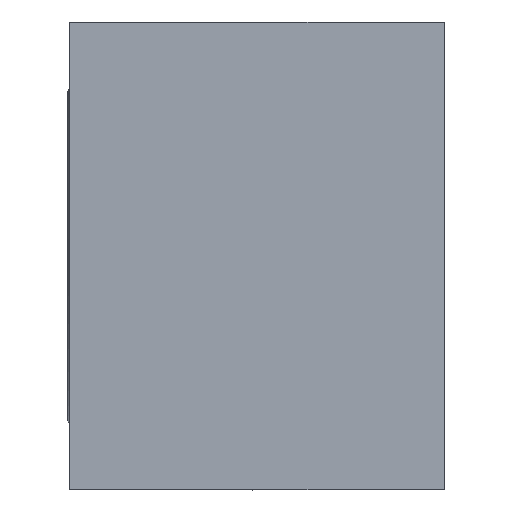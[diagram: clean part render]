
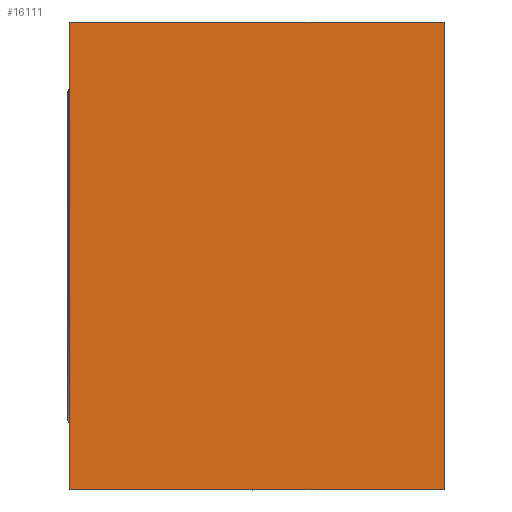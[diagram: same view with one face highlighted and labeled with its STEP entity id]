
A CAD part, front view. The second image highlights one B-rep face of the part: STEP entity #16111.
In plain terms, the highlighted planar face has unit normal (0, -1, 0).
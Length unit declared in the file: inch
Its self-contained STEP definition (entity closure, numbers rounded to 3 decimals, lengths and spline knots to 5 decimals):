
#109 = EDGE_CURVE ( 'NONE', #18565, #18801, #8343, .T. ) ;
#688 = EDGE_CURVE ( 'NONE', #10334, #7770, #14701, .T. ) ;
#938 = FACE_OUTER_BOUND ( 'NONE', #9636, .T. ) ;
#1091 = ORIENTED_EDGE ( 'NONE', *, *, #3306, .F. ) ;
#1859 = CARTESIAN_POINT ( 'NONE',  ( -5.33806, 5.72567, 5.13287 ) ) ;
#2235 = CARTESIAN_POINT ( 'NONE',  ( -5.33806, 5.72567, 5.13287 ) ) ;
#2881 = CARTESIAN_POINT ( 'NONE',  ( -1.33806, 5.72567, 0.13287 ) ) ;
#3306 = EDGE_CURVE ( 'NONE', #18801, #7770, #13615, .T. ) ;
#3481 = CARTESIAN_POINT ( 'NONE',  ( -5.33806, 5.72567, 0.13287 ) ) ;
#3618 = DIRECTION ( 'NONE',  ( 0., -1., 0. ) ) ;
#3657 = DIRECTION ( 'NONE',  ( 1., 0., 0. ) ) ;
#5045 = AXIS2_PLACEMENT_3D ( 'NONE', #6762, #3618, #13924 ) ;
#5149 = PLANE ( 'NONE',  #5045 ) ;
#5219 = VECTOR ( 'NONE', #3657, 39.37008 ) ;
#6198 = CARTESIAN_POINT ( 'NONE',  ( -5.33806, 5.72567, 0.13287 ) ) ;
#6249 = DIRECTION ( 'NONE',  ( 0., 0., -1. ) ) ;
#6762 = CARTESIAN_POINT ( 'NONE',  ( -5.33806, 5.72567, 5.13287 ) ) ;
#7312 = EDGE_CURVE ( 'NONE', #18565, #10334, #7400, .T. ) ;
#7400 = LINE ( 'NONE', #1859, #8010 ) ;
#7770 = VERTEX_POINT ( 'NONE', #2881 ) ;
#8010 = VECTOR ( 'NONE', #6249, 39.37008 ) ;
#8343 = LINE ( 'NONE', #2235, #5219 ) ;
#9059 = ORIENTED_EDGE ( 'NONE', *, *, #109, .F. ) ;
#9174 = CARTESIAN_POINT ( 'NONE',  ( -1.33806, 5.72567, 5.13287 ) ) ;
#9636 = EDGE_LOOP ( 'NONE', ( #1091, #9059, #16483, #16514 ) ) ;
#10334 = VERTEX_POINT ( 'NONE', #3481 ) ;
#10477 = VECTOR ( 'NONE', #12468, 39.37008 ) ;
#10939 = CARTESIAN_POINT ( 'NONE',  ( -1.33806, 5.72567, 5.13287 ) ) ;
#11931 = DIRECTION ( 'NONE',  ( 1., 0., 0. ) ) ;
#12468 = DIRECTION ( 'NONE',  ( 0., 0., -1. ) ) ;
#13615 = LINE ( 'NONE', #10939, #10477 ) ;
#13924 = DIRECTION ( 'NONE',  ( -1., 0., 0. ) ) ;
#14701 = LINE ( 'NONE', #6198, #16524 ) ;
#15880 = CARTESIAN_POINT ( 'NONE',  ( -5.33806, 5.72567, 5.13287 ) ) ;
#16111 = ADVANCED_FACE ( 'NONE', ( #938 ), #5149, .T. ) ;
#16483 = ORIENTED_EDGE ( 'NONE', *, *, #7312, .T. ) ;
#16514 = ORIENTED_EDGE ( 'NONE', *, *, #688, .T. ) ;
#16524 = VECTOR ( 'NONE', #11931, 39.37008 ) ;
#18565 = VERTEX_POINT ( 'NONE', #15880 ) ;
#18801 = VERTEX_POINT ( 'NONE', #9174 ) ;
